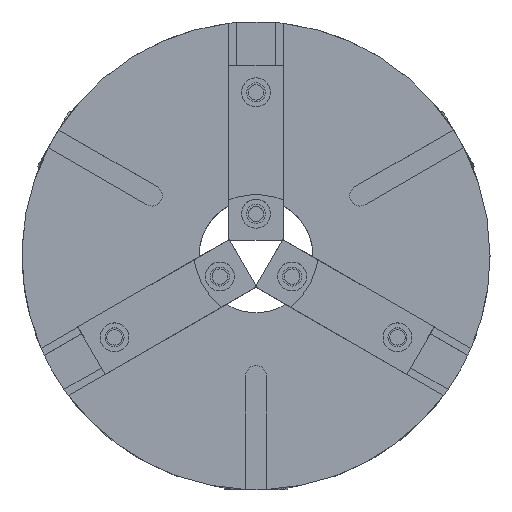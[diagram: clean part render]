
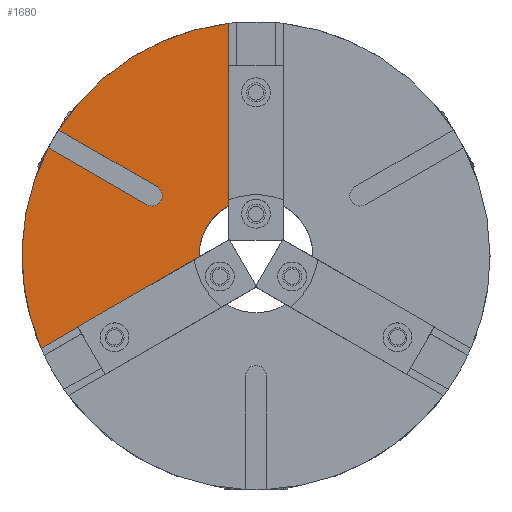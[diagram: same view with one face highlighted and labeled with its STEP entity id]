
A CAD part, top view. The second image highlights one B-rep face of the part: STEP entity #1680.
In plain terms, the highlighted planar face has unit normal (0, 0, 1).
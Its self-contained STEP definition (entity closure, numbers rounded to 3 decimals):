
#1377=FACE_OUTER_BOUND('',#1939,.T.);
#1523=PLANE('',#4620);
#1680=ADVANCED_FACE('',(#1377),#1523,.T.);
#1939=EDGE_LOOP('',(#3041,#3042,#3043,#3044,#3045,#3046,#3047,#3048));
#2177=LINE('',#6109,#2501);
#2203=LINE('',#6210,#2527);
#2204=LINE('',#6211,#2528);
#2205=LINE('',#6212,#2529);
#2501=VECTOR('',#5073,1.0);
#2527=VECTOR('',#5159,1.0);
#2528=VECTOR('',#5160,1.0);
#2529=VECTOR('',#5161,1.0);
#3041=ORIENTED_EDGE('',*,*,#4136,.T.);
#3042=ORIENTED_EDGE('',*,*,#4137,.T.);
#3043=ORIENTED_EDGE('',*,*,#3957,.T.);
#3044=ORIENTED_EDGE('',*,*,#4138,.T.);
#3045=ORIENTED_EDGE('',*,*,#4091,.F.);
#3046=ORIENTED_EDGE('',*,*,#4087,.F.);
#3047=ORIENTED_EDGE('',*,*,#3965,.T.);
#3048=ORIENTED_EDGE('',*,*,#4139,.T.);
#3653=VERTEX_POINT('',#5752);
#3654=VERTEX_POINT('',#5754);
#3661=VERTEX_POINT('',#5768);
#3662=VERTEX_POINT('',#5770);
#3752=VERTEX_POINT('',#6108);
#3756=VERTEX_POINT('',#6120);
#3796=VERTEX_POINT('',#6208);
#3797=VERTEX_POINT('',#6209);
#3957=EDGE_CURVE('',#3654,#3653,#4389,.T.);
#3965=EDGE_CURVE('',#3662,#3661,#4393,.T.);
#4087=EDGE_CURVE('',#3662,#3752,#2177,.T.);
#4091=EDGE_CURVE('',#3752,#3756,#4443,.T.);
#4136=EDGE_CURVE('',#3796,#3797,#4464,.T.);
#4137=EDGE_CURVE('',#3797,#3654,#2203,.T.);
#4138=EDGE_CURVE('',#3653,#3756,#2204,.T.);
#4139=EDGE_CURVE('',#3661,#3796,#2205,.T.);
#4389=CIRCLE('',#4504,154.0);
#4393=CIRCLE('',#4508,154.0);
#4443=CIRCLE('',#4595,37.5);
#4464=CIRCLE('',#4619,6.8);
#4504=AXIS2_PLACEMENT_3D('',#5753,#4826,#4827);
#4508=AXIS2_PLACEMENT_3D('',#5769,#4838,#4839);
#4595=AXIS2_PLACEMENT_3D('',#6119,#5085,#5086);
#4619=AXIS2_PLACEMENT_3D('',#6207,#5157,#5158);
#4620=AXIS2_PLACEMENT_3D('',#6213,#5162,#5163);
#4826=DIRECTION('',(0.0,0.0,1.0));
#4827=DIRECTION('',(1.0,0.0,0.0));
#4838=DIRECTION('',(0.0,0.0,1.0));
#4839=DIRECTION('',(1.0,0.0,0.0));
#5073=DIRECTION('',(0.0,-1.0,0.0));
#5085=DIRECTION('',(0.0,0.0,1.0));
#5086=DIRECTION('',(1.0,0.0,0.0));
#5157=DIRECTION('',(0.0,0.0,-1.0));
#5158=DIRECTION('',(0.0,-1.0,0.0));
#5159=DIRECTION('',(-0.866,0.5,0.0));
#5160=DIRECTION('',(0.866,0.5,0.0));
#5161=DIRECTION('',(0.866,-0.5,0.0));
#5162=DIRECTION('',(0.0,0.0,1.0));
#5163=DIRECTION('',(1.0,0.0,0.0));
#5752=CARTESIAN_POINT('',(-141.454,-60.884,105.0));
#5753=CARTESIAN_POINT('',(0.0,0.0,105.0));
#5754=CARTESIAN_POINT('',(-136.638,71.036,105.0));
#5768=CARTESIAN_POINT('',(-129.838,82.814,105.0));
#5769=CARTESIAN_POINT('',(0.0,0.0,105.0));
#5770=CARTESIAN_POINT('',(-18.0,152.944,105.0));
#6108=CARTESIAN_POINT('',(-18.0,32.898,105.0));
#6109=CARTESIAN_POINT('',(-18.0,448.055,105.0));
#6119=CARTESIAN_POINT('',(0.0,0.0,105.0));
#6120=CARTESIAN_POINT('',(-37.49,-0.86,105.0));
#6207=CARTESIAN_POINT('',(-68.416,39.5,105.0));
#6208=CARTESIAN_POINT('',(-65.016,45.389,105.0));
#6209=CARTESIAN_POINT('',(-71.816,33.611,105.0));
#6210=CARTESIAN_POINT('',(-71.816,33.611,105.0));
#6211=CARTESIAN_POINT('',(-397.027,-208.439,105.0));
#6212=CARTESIAN_POINT('',(-65.016,45.389,105.0));
#6213=CARTESIAN_POINT('',(37.5,0.0,105.0));
